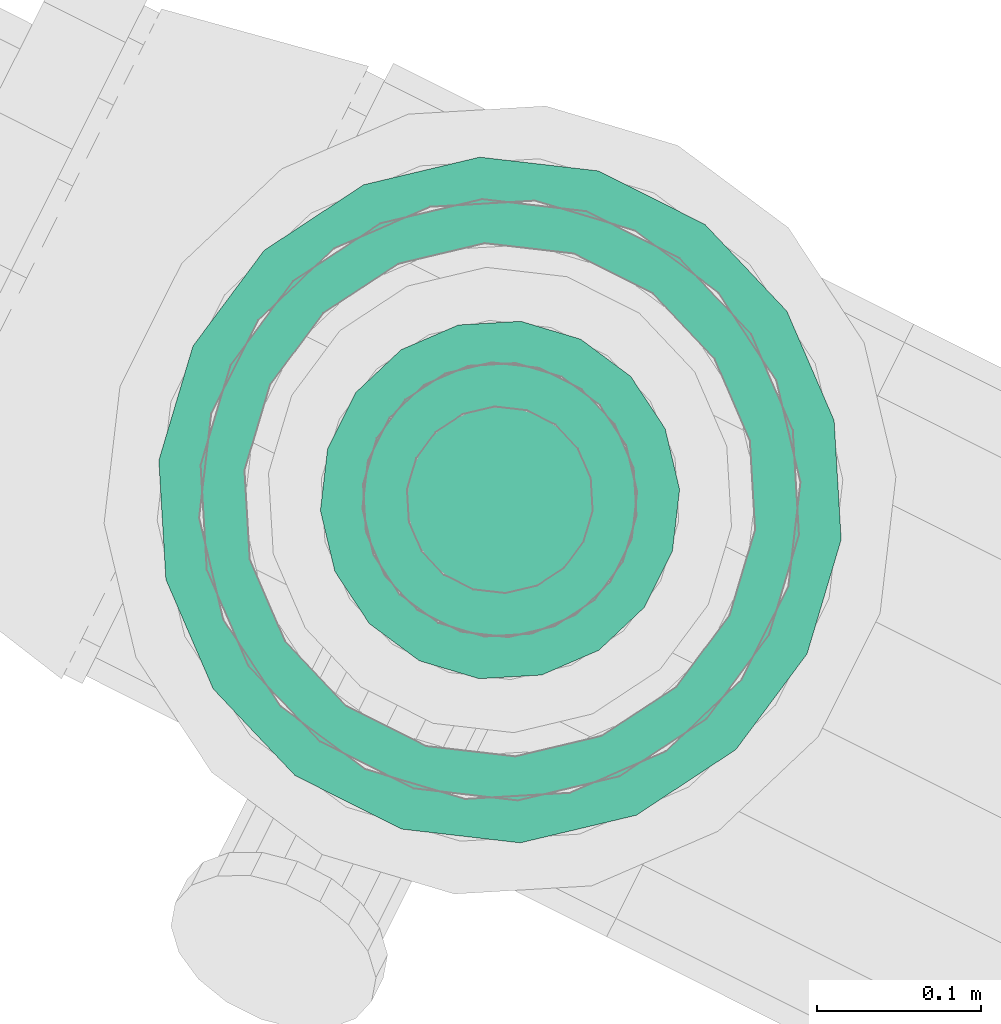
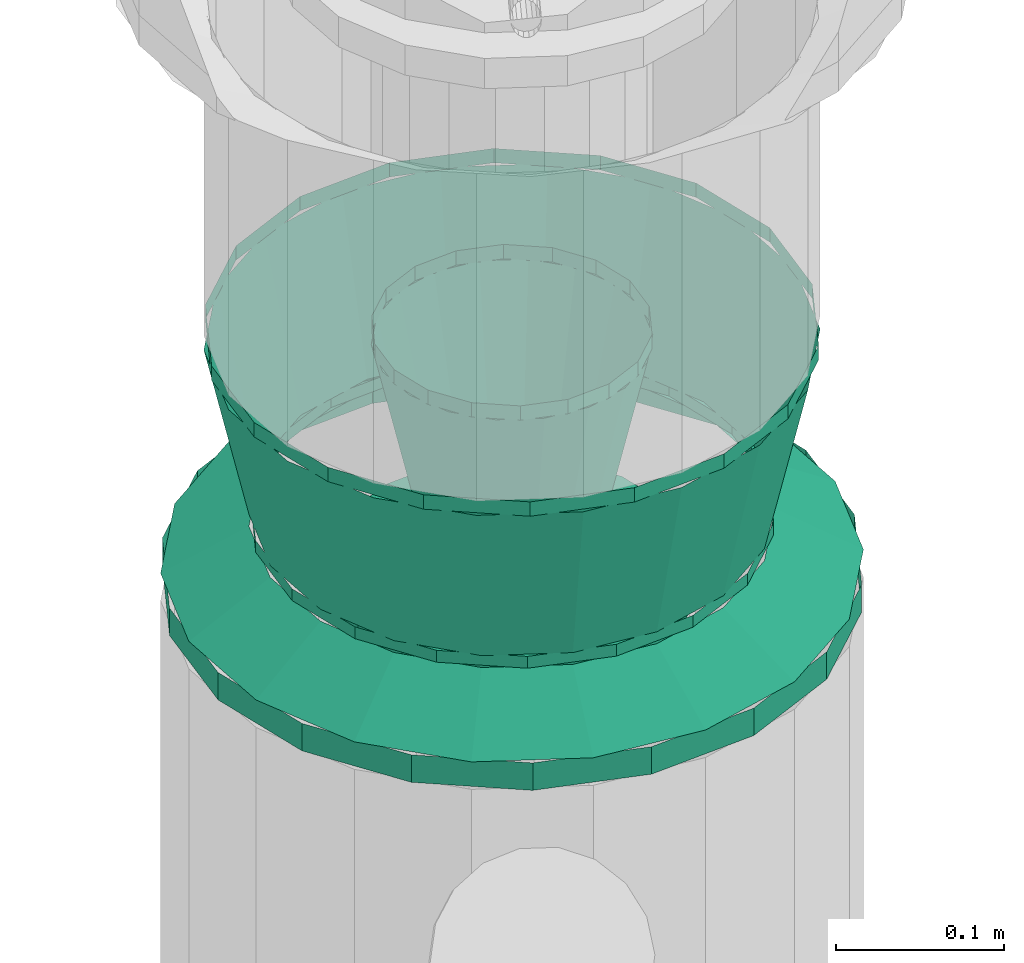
# One storey, part 69 of 152: 2 flow fittings.
"""IFC2X3 building model written with IfcOpenShell, lengths in metres."""

from ifc_helpers import new_model, si_unit, derived_unit, direction, frame, origin, place, context, subcontext, project, spatial, face_set, surface_model, source, transform, mapped, material, type_object, type_shapes, element, save


model = new_model("IFC2X3")

# Units and contexts
model_context = context("Model", 3, precision=5.2338327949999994e-05, world=origin(), true_north=direction((0.0, 1.0)))
body_context = subcontext(model_context, "Body", "Model", "MODEL_VIEW")
ifc_project = project(units=[si_unit("LENGTHUNIT", "METRE"), si_unit("AREAUNIT", "SQUARE_METRE"), si_unit("VOLUMEUNIT", "CUBIC_METRE"), si_unit("MASSUNIT", "GRAM", prefix="KILO"), si_unit("PLANEANGLEUNIT", "RADIAN"), derived_unit("THERMALTRANSMITTANCEUNIT", [(si_unit("MASSUNIT", "GRAM", prefix="KILO"), 1), (si_unit("THERMODYNAMICTEMPERATUREUNIT", "KELVIN"), -1), (si_unit("TIMEUNIT", "SECOND"), -3)])], contexts=[model_context])

# Site, building, storey
site_placement = place(None, frame((0.0, 0.0, 0.0), z_axis=(0.0, 0.0, 1.0), x_axis=(0.8939966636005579, -0.4480736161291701, 0.0)))
site = spatial("IfcSite", under=ifc_project, at=site_placement, Name="Default", CompositionType="ELEMENT")
building_placement = place(site_placement, origin())
building = spatial("IfcBuilding", under=site, at=building_placement, CompositionType="ELEMENT")
storey_placement = place(building_placement, frame((0.0, 0.0, 2.7499999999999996)))
storey = spatial("IfcBuildingStorey", under=building, at=storey_placement, Name="1. Obergeschoss", CompositionType="ELEMENT", Elevation=2.7499999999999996)

# Flow fittings
ifc_material = material(Name="IfcSurfaceStyle #1741")
distribution_element_type_1 = type_object("IfcDistributionElementType", Name="Flansch 318448:Flansch 318448", material=ifc_material)
shared_shape_1 = source(origin(), body_context, "Body", "SurfaceModel", [
    surface_model("IfcFaceBasedSurfaceModel", [(23.08485389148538, 8.569715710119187, 3.863870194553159), (23.047231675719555, 8.563081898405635, 3.863870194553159), (23.047231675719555, 8.563081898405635, 3.8838701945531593), (23.08485389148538, 8.569715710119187, 3.8838701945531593), (23.01414725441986, 8.54398059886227, 3.863870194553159), (23.01414725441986, 8.54398059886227, 3.8838701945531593), (22.989591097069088, 8.514715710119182, 3.863870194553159), (22.989591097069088, 8.514715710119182, 3.8838701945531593), (22.976525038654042, 8.478817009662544, 3.863870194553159), (22.976525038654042, 8.478817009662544, 3.8838701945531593), (22.976525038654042, 8.440614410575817, 3.863870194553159), (22.976525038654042, 8.440614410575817, 3.8838701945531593), (22.98959109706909, 8.404715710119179, 3.863870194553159), (22.98959109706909, 8.404715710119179, 3.8838701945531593), (23.01414725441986, 8.375450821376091, 3.863870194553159), (23.01414725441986, 8.375450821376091, 3.8838701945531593), (23.04723167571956, 8.356349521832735, 3.863870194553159), (23.04723167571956, 8.356349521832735, 3.8838701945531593), (23.084853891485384, 8.349715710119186, 3.863870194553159), (23.084853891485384, 8.349715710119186, 3.8838701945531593), (23.12247610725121, 8.356349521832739, 3.863870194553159), (23.12247610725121, 8.356349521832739, 3.8838701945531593), (23.155560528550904, 8.375450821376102, 3.863870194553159), (23.155560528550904, 8.375450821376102, 3.8838701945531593), (23.180116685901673, 8.404715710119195, 3.863870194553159), (23.180116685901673, 8.404715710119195, 3.8838701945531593), (23.19318274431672, 8.440614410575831, 3.863870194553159), (23.19318274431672, 8.440614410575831, 3.8838701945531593), (23.19318274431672, 8.478817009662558, 3.863870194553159), (23.19318274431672, 8.478817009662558, 3.8838701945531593), (23.180116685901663, 8.514715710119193, 3.863870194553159), (23.180116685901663, 8.514715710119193, 3.8838701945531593), (23.1555605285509, 8.54398059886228, 3.863870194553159), (23.1555605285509, 8.54398059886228, 3.8838701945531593), (23.122476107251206, 8.56308189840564, 3.863870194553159), (23.122476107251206, 8.56308189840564, 3.8838701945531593), (23.08485389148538, 8.459715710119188, 3.8838701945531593), (23.019353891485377, 8.459715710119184, 3.8838701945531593), (23.0233040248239, 8.437313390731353, 3.8838701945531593), (23.03115045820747, 8.44016925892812, 3.915870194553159), (23.02770389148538, 8.459715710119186, 3.915870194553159), (23.034677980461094, 8.417613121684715, 3.8838701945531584), (23.041074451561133, 8.422980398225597, 3.9158701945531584), (23.052103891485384, 8.402991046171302, 3.8838701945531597), (23.056278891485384, 8.410222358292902, 3.9158701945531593), (23.073479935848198, 8.395210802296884, 3.8838701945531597), (23.074929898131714, 8.40343394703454, 3.9158701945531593), (23.096227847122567, 8.395210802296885, 3.8838701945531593), (23.094777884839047, 8.40343394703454, 3.915870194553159), (23.11760389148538, 8.402991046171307, 3.8838701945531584), (23.113428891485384, 8.41022235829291, 3.9158701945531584), (23.135029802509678, 8.41761312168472, 3.8838701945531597), (23.128633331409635, 8.4229803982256, 3.9158701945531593), (23.14640375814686, 8.437313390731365, 3.883870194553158), (23.138557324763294, 8.440169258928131, 3.915870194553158), (23.150353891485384, 8.459715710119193, 3.8838701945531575), (23.142003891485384, 8.459715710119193, 3.915870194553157), (23.14640375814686, 8.482118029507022, 3.8838701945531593), (23.138557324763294, 8.479262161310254, 3.915870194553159), (23.13502980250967, 8.50181829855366, 3.8838701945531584), (23.128633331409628, 8.496451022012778, 3.9158701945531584), (23.11760389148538, 8.51644037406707, 3.8838701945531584), (23.11342889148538, 8.50920906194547, 3.9158701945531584), (23.096227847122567, 8.524220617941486, 3.8838701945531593), (23.094777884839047, 8.515997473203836, 3.915870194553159), (23.073479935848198, 8.524220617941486, 3.8838701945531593), (23.074929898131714, 8.515997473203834, 3.915870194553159), (23.052103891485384, 8.516440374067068, 3.8838701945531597), (23.056278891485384, 8.509209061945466, 3.9158701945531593), (23.034677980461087, 8.50181829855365, 3.8838701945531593), (23.04107445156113, 8.496451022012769, 3.915870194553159), (23.023304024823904, 8.482118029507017, 3.88387019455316), (23.03115045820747, 8.479262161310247, 3.9158701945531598), (23.08485389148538, 8.669715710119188, 3.863870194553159), (23.01302966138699, 8.657051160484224, 3.863870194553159), (23.01302966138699, 8.657051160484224, 3.8838701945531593), (23.084853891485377, 8.669715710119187, 3.88387019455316), (22.949868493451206, 8.620585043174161, 3.863870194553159), (22.949868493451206, 8.620585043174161, 3.8838701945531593), (22.902988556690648, 8.564715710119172, 3.863870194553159), (22.902988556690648, 8.564715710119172, 3.8838701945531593), (22.878044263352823, 8.496181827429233, 3.863870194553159), (22.878044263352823, 8.496181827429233, 3.8838701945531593), (22.878044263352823, 8.42324959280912, 3.863870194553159), (22.878044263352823, 8.42324959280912, 3.8838701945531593), (22.90298855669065, 8.354715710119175, 3.863870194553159), (22.90298855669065, 8.354715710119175, 3.8838701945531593), (22.94986849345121, 8.298846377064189, 3.863870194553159), (22.94986849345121, 8.298846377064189, 3.8838701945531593), (23.013029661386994, 8.26238025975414, 3.863870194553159), (23.013029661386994, 8.26238025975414, 3.8838701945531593), (23.084853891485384, 8.249715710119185, 3.863870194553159), (23.084853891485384, 8.249715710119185, 3.8838701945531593), (23.156678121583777, 8.262380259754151, 3.863870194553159), (23.156678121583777, 8.262380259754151, 3.8838701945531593), (23.21983928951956, 8.298846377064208, 3.863870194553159), (23.21983928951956, 8.298846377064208, 3.8838701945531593), (23.266719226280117, 8.354715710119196, 3.863870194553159), (23.266719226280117, 8.354715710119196, 3.8838701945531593), (23.29166351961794, 8.423249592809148, 3.863870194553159), (23.29166351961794, 8.423249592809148, 3.8838701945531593), (23.29166351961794, 8.496181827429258, 3.863870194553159), (23.29166351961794, 8.496181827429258, 3.8838701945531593), (23.26671922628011, 8.5647157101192, 3.863870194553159), (23.26671922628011, 8.5647157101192, 3.8838701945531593), (23.21983928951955, 8.620585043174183, 3.863870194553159), (23.21983928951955, 8.620585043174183, 3.8838701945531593), (23.156678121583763, 8.657051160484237, 3.863870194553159), (23.156678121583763, 8.657051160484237, 3.8838701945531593), (22.874853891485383, 8.459715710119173, 3.8838701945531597), (22.887518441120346, 8.387891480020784, 3.8838701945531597), (22.93718119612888, 8.40596724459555, 3.9158701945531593), (22.927703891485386, 8.459715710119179, 3.915870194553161), (22.923984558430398, 8.324730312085, 3.8838701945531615), (22.96447000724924, 8.358701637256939, 3.915870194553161), (22.97985389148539, 8.277850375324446, 3.8838701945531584), (23.006278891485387, 8.323619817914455, 3.9158701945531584), (23.048387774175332, 8.252906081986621, 3.8838701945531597), (23.057565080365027, 8.304953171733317, 3.9158701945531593), (23.121320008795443, 8.252906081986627, 3.8838701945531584), (23.11214270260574, 8.304953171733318, 3.9158701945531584), (23.18985389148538, 8.27785037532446, 3.8838701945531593), (23.16342889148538, 8.323619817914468, 3.915870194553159), (23.24572322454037, 8.324730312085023, 3.8838701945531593), (23.20523777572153, 8.358701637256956, 3.915870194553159), (23.28218934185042, 8.38789148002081, 3.8838701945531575), (23.232526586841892, 8.405967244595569, 3.915870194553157), (23.29485389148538, 8.4597157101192, 3.8838701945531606), (23.24200389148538, 8.4597157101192, 3.9158701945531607), (23.28218934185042, 8.531539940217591, 3.8838701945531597), (23.232526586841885, 8.513464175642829, 3.9158701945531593), (23.24572322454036, 8.594701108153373, 3.8838701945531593), (23.205237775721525, 8.560729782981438, 3.915870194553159), (23.189853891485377, 8.641581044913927, 3.8838701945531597), (23.163428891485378, 8.595811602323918, 3.9158701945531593), (23.121320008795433, 8.666525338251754, 3.8838701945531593), (23.112142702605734, 8.61447824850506, 3.915870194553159), (23.04838777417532, 8.66652533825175, 3.8838701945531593), (23.057565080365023, 8.614478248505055, 3.915870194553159), (22.979853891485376, 8.641581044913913, 3.8838701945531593), (23.00627889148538, 8.595811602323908, 3.915870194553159), (22.923984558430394, 8.594701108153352, 3.8838701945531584), (22.96447000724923, 8.56072978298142, 3.9158701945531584), (22.887518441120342, 8.531539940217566, 3.8838701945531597), (22.937181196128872, 8.513464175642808, 3.9158701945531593)], [face_set([[[0, 1, 2, 3]], [[1, 4, 5, 2]], [[4, 6, 7, 5]], [[6, 8, 9, 7]], [[8, 10, 11, 9]], [[10, 12, 13, 11]], [[12, 14, 15, 13]], [[14, 16, 17, 15]], [[16, 18, 19, 17]], [[18, 20, 21, 19]], [[20, 22, 23, 21]], [[22, 24, 25, 23]], [[24, 26, 27, 25]], [[26, 28, 29, 27]], [[28, 30, 31, 29]], [[30, 32, 33, 31]], [[32, 34, 35, 33]], [[34, 0, 3, 35]], [[36, 35, 3]], [[36, 33, 35]], [[36, 31, 33]], [[36, 29, 31]], [[36, 27, 29]], [[36, 25, 27]], [[36, 23, 25]], [[36, 21, 23]], [[36, 19, 21]], [[36, 17, 19]], [[36, 15, 17]], [[36, 13, 15]], [[36, 11, 13]], [[36, 9, 11]], [[36, 7, 9]], [[36, 5, 7]], [[36, 2, 5]], [[36, 3, 2]], [[37, 38, 39, 40]], [[38, 41, 42, 39]], [[41, 43, 44, 42]], [[43, 45, 46, 44]], [[45, 47, 48, 46]], [[47, 49, 50, 48]], [[49, 51, 52, 50]], [[51, 53, 54, 52]], [[53, 55, 56, 54]], [[55, 57, 58, 56]], [[57, 59, 60, 58]], [[59, 61, 62, 60]], [[61, 63, 64, 62]], [[63, 65, 66, 64]], [[65, 67, 68, 66]], [[67, 69, 70, 68]], [[69, 71, 72, 70]], [[71, 37, 40, 72]], [[73, 74, 75, 76]], [[74, 77, 78, 75]], [[77, 79, 80, 78]], [[79, 81, 82, 80]], [[81, 83, 84, 82]], [[83, 85, 86, 84]], [[85, 87, 88, 86]], [[87, 89, 90, 88]], [[89, 91, 92, 90]], [[91, 93, 94, 92]], [[93, 95, 96, 94]], [[95, 97, 98, 96]], [[97, 99, 100, 98]], [[99, 101, 102, 100]], [[101, 103, 104, 102]], [[103, 105, 106, 104]], [[105, 107, 108, 106]], [[107, 73, 76, 108]], [[109, 110, 111, 112]], [[110, 113, 114, 111]], [[113, 115, 116, 114]], [[115, 117, 118, 116]], [[117, 119, 120, 118]], [[119, 121, 122, 120]], [[121, 123, 124, 122]], [[123, 125, 126, 124]], [[125, 127, 128, 126]], [[127, 129, 130, 128]], [[129, 131, 132, 130]], [[131, 133, 134, 132]], [[133, 135, 136, 134]], [[135, 137, 138, 136]], [[137, 139, 140, 138]], [[139, 141, 142, 140]], [[141, 143, 144, 142]], [[143, 109, 112, 144]]])]),
])
type_shapes(distribution_element_type_1, [shared_shape_1])
flow_fitting_1_placement = place(storey_placement, frame((0.0, 0.0, -2.7499999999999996)))
element("IfcFlowFitting", 1, at=flow_fitting_1_placement, inside=storey, type_object=distribution_element_type_1, material=ifc_material, Name="Flansch", ObjectType="Flansch", context=body_context, shape_type="MappedRepresentation", body=[
    mapped(shared_shape_1, transform((0.0, 0.0, 0.0), scale=1.0)),
])
distribution_element_type_2 = type_object("IfcDistributionElementType", Name="Übergangsstück 318471:Übergangsstück 318471", material=ifc_material)
shared_shape_2 = source(origin(), body_context, "Body", "SurfaceModel", [
    surface_model("IfcFaceBasedSurfaceModel", [(23.08485389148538, 8.402565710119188, 3.915870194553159), (23.104400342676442, 8.406012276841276, 3.915870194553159), (23.104400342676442, 8.406012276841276, 3.924489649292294), (23.08485389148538, 8.402565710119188, 3.924489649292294), (23.121589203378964, 8.415936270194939, 3.915870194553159), (23.121589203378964, 8.415936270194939, 3.924489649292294), (23.13434724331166, 8.43114071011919, 3.915870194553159), (23.13434724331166, 8.43114071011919, 3.924489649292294), (23.141135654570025, 8.449791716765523, 3.915870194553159), (23.141135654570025, 8.449791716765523, 3.924489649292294), (23.141135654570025, 8.469639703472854, 3.915870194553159), (23.141135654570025, 8.469639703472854, 3.924489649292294), (23.13434724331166, 8.488290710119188, 3.915870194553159), (23.13434724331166, 8.488290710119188, 3.924489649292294), (23.12158920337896, 8.503495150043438, 3.915870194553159), (23.12158920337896, 8.503495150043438, 3.924489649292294), (23.104400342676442, 8.513419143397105, 3.915870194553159), (23.104400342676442, 8.513419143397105, 3.924489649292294), (23.08485389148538, 8.516865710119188, 3.915870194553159), (23.08485389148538, 8.516865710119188, 3.924489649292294), (23.06530744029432, 8.513419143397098, 3.915870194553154), (23.06530744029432, 8.513419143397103, 3.9244896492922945), (23.04811857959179, 8.503495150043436, 3.9158701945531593), (23.04811857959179, 8.503495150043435, 3.9244896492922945), (23.0353605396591, 8.488290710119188, 3.915870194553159), (23.0353605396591, 8.488290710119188, 3.924489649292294), (23.02857212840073, 8.469639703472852, 3.915870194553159), (23.02857212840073, 8.469639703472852, 3.924489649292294), (23.02857212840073, 8.44979171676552, 3.915870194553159), (23.02857212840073, 8.44979171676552, 3.924489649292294), (23.035360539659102, 8.43114071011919, 3.915870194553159), (23.035360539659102, 8.43114071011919, 3.924489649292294), (23.04811857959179, 8.415936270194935, 3.915870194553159), (23.04811857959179, 8.415936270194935, 3.924489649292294), (23.06530744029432, 8.406012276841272, 3.915870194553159), (23.06530744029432, 8.406012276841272, 3.924489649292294), (23.08485389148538, 8.302565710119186, 3.915870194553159), (23.138602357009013, 8.312043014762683, 3.915870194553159), (23.138602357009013, 8.312043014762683, 3.924489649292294), (23.084853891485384, 8.302565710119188, 3.924489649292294), (23.18586796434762, 8.33933182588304, 3.915870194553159), (23.18586796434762, 8.33933182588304, 3.924489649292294), (23.220949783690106, 8.381140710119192, 3.915870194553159), (23.220949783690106, 8.381140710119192, 3.924489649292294), (23.239616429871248, 8.432426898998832, 3.915870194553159), (23.239616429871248, 8.432426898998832, 3.924489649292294), (23.239616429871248, 8.48700452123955, 3.915870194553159), (23.239616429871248, 8.48700452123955, 3.924489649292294), (23.220949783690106, 8.53829071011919, 3.915870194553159), (23.220949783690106, 8.53829071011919, 3.924489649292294), (23.185867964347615, 8.580099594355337, 3.915870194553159), (23.185867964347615, 8.580099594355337, 3.924489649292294), (23.138602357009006, 8.607388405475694, 3.915870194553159), (23.138602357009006, 8.607388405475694, 3.924489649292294), (23.084853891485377, 8.616865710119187, 3.915870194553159), (23.084853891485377, 8.616865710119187, 3.924489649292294), (23.031105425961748, 8.607388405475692, 3.915870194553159), (23.031105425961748, 8.607388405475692, 3.924489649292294), (22.983839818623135, 8.580099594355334, 3.915870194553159), (22.983839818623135, 8.580099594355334, 3.924489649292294), (22.948757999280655, 8.538290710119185, 3.915870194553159), (22.948757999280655, 8.538290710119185, 3.924489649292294), (22.930091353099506, 8.487004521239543, 3.915870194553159), (22.930091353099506, 8.487004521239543, 3.924489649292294), (22.93009135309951, 8.432426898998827, 3.915870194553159), (22.93009135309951, 8.432426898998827, 3.924489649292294), (22.94875799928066, 8.381140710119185, 3.915870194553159), (22.94875799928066, 8.381140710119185, 3.924489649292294), (22.98383981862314, 8.339331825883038, 3.915870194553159), (22.98383981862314, 8.339331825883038, 3.924489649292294), (23.031105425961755, 8.31204301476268, 3.915870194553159), (23.031105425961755, 8.31204301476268, 3.924489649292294), (23.142003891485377, 8.459715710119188, 3.9244896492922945), (23.138557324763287, 8.479262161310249, 3.9244896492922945), (23.163929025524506, 8.488496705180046, 4.045410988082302), (23.16900389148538, 8.459715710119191, 4.045410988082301), (23.128633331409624, 8.496451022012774, 3.924489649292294), (23.14931653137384, 8.513806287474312, 4.045410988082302), (23.113428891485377, 8.50920906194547, 3.924489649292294), (23.126928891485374, 8.532591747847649, 4.045410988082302), (23.09477788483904, 8.515997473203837, 3.9244896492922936), (23.099466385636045, 8.542587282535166, 4.045410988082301), (23.074929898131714, 8.515997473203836, 3.924489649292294), (23.0702413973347, 8.542587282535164, 4.045410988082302), (23.05627889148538, 8.509209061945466, 3.9244896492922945), (23.04277889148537, 8.532591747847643, 4.045410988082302), (23.041074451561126, 8.496451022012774, 3.924489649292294), (23.020391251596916, 8.513806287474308, 4.045410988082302), (23.03115045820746, 8.479262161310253, 3.9244896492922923), (23.00577875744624, 8.488496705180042, 4.045410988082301), (23.02770389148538, 8.459715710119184, 3.9244896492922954), (23.000703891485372, 8.459715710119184, 4.0454109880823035), (23.031150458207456, 8.440169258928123, 3.9244896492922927), (23.00577875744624, 8.430934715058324, 4.045410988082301), (23.04107445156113, 8.4229803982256, 3.924489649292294), (23.020391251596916, 8.40562513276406, 4.045410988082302), (23.05627889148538, 8.41022235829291, 3.924489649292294), (23.04277889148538, 8.386839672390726, 4.045410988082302), (23.074929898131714, 8.40343394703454, 3.924489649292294), (23.070241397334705, 8.37684413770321, 4.045410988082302), (23.09477788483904, 8.403433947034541, 3.924489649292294), (23.09946638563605, 8.37684413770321, 4.045410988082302), (23.113428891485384, 8.410222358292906, 3.9244896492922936), (23.12692889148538, 8.386839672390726, 4.045410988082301), (23.128633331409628, 8.422980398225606, 3.924489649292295), (23.14931653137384, 8.405625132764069, 4.045410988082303), (23.138557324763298, 8.440169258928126, 3.924489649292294), (23.16392902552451, 8.43093471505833, 4.045410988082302), (23.084853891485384, 8.375565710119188, 4.0454109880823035), (23.11363488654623, 8.380640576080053, 4.0454109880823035), (23.11363488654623, 8.380640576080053, 4.055870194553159), (23.084853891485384, 8.375565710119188, 4.055870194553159), (23.138944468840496, 8.395253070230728, 4.0454109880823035), (23.138944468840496, 8.395253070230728, 4.055870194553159), (23.157729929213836, 8.417640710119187, 4.0454109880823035), (23.157729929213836, 8.417640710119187, 4.055870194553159), (23.167725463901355, 8.445103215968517, 4.0454109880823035), (23.167725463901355, 8.445103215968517, 4.055870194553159), (23.167725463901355, 8.474328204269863, 4.0454109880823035), (23.167725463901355, 8.474328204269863, 4.055870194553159), (23.157729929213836, 8.50179071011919, 4.0454109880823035), (23.157729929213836, 8.50179071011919, 4.055870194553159), (23.138944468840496, 8.524178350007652, 4.0454109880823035), (23.138944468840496, 8.524178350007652, 4.055870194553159), (23.11363488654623, 8.538790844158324, 4.0454109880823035), (23.11363488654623, 8.538790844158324, 4.055870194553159), (23.084853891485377, 8.543865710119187, 4.0454109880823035), (23.084853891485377, 8.543865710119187, 4.055870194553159), (23.05607289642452, 8.53879084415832, 4.0454109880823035), (23.05607289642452, 8.53879084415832, 4.055870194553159), (23.03076331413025, 8.524178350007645, 4.0454109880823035), (23.03076331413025, 8.524178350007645, 4.055870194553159), (23.011977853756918, 8.501790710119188, 4.0454109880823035), (23.011977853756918, 8.501790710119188, 4.055870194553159), (23.001982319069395, 8.474328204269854, 4.0454109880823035), (23.001982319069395, 8.474328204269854, 4.055870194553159), (23.001982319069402, 8.445103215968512, 4.0454109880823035), (23.001982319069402, 8.445103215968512, 4.055870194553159), (23.011977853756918, 8.417640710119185, 4.0454109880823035), (23.011977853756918, 8.417640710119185, 4.055870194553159), (23.030763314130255, 8.395253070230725, 4.0454109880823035), (23.030763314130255, 8.395253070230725, 4.055870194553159), (23.056072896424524, 8.38064057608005, 4.0454109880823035), (23.056072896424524, 8.38064057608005, 4.055870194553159), (23.242003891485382, 8.45971571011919, 3.9244896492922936), (23.232526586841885, 8.51346417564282, 3.9244896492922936), (23.257898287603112, 8.522698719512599, 4.045410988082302), (23.26900389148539, 8.459715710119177, 4.045410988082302), (23.20523777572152, 8.56072978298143, 3.924489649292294), (23.225920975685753, 8.578085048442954, 4.045410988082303), (23.163428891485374, 8.59581160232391, 3.924489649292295), (23.176928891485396, 8.619194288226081, 4.0454109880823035), (23.112142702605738, 8.614478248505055, 3.924489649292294), (23.116831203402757, 8.641068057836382, 4.045410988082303), (23.057565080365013, 8.614478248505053, 3.924489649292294), (23.05287657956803, 8.641068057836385, 4.045410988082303), (23.006278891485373, 8.59581160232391, 3.924489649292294), (22.992778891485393, 8.619194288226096, 4.045410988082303), (22.96447000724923, 8.560729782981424, 3.9244896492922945), (22.943786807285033, 8.578085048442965, 4.0454109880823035), (22.937181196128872, 8.513464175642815, 3.924489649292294), (22.911809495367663, 8.522698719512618, 4.045410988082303), (22.927703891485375, 8.459715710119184, 3.924489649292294), (22.90070389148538, 8.459715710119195, 4.045410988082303), (22.937181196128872, 8.405967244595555, 3.924489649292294), (22.911809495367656, 8.396732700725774, 4.045410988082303), (22.964470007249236, 8.358701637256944, 3.9244896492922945), (22.943786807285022, 8.341346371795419, 4.0454109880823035), (23.006278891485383, 8.323619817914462, 3.9244896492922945), (22.992778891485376, 8.30023713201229, 4.0454109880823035), (23.057565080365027, 8.30495317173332, 3.9244896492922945), (23.052876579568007, 8.278363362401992, 4.0454109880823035), (23.11214270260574, 8.304953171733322, 3.924489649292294), (23.116831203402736, 8.278363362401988, 4.045410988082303), (23.16342889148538, 8.323619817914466, 3.924489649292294), (23.176928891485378, 8.300237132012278, 4.045410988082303), (23.205237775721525, 8.358701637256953, 3.9244896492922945), (23.225920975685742, 8.341346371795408, 4.0454109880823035), (23.232526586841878, 8.405967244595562, 3.924489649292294), (23.257898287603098, 8.396732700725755, 4.045410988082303), (23.084853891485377, 8.275565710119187, 4.0454109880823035), (23.147836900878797, 8.286671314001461, 4.0454109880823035), (23.147836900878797, 8.286671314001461, 4.055870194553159), (23.084853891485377, 8.275565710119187, 4.055870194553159), (23.20322322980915, 8.318648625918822, 4.0454109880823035), (23.20322322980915, 8.318648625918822, 4.055870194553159), (23.244332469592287, 8.36764071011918, 4.0454109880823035), (23.244332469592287, 8.36764071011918, 4.055870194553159), (23.26620623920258, 8.427738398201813, 4.0454109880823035), (23.26620623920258, 8.427738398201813, 4.055870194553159), (23.26620623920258, 8.491693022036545, 4.0454109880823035), (23.26620623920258, 8.491693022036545, 4.055870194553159), (23.24433246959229, 8.55179071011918, 4.0454109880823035), (23.24433246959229, 8.55179071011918, 4.055870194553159), (23.20322322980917, 8.60078279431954, 4.0454109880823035), (23.20322322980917, 8.60078279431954, 4.055870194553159), (23.147836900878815, 8.632760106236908, 4.0454109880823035), (23.147836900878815, 8.632760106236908, 4.055870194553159), (23.084853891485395, 8.64386571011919, 4.0454109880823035), (23.084853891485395, 8.64386571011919, 4.055870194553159), (23.021870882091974, 8.632760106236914, 4.0454109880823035), (23.021870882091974, 8.632760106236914, 4.055870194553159), (22.96648455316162, 8.600782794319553, 4.0454109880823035), (22.96648455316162, 8.600782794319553, 4.055870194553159), (22.92537531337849, 8.551790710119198, 4.0454109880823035), (22.92537531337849, 8.551790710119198, 4.055870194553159), (22.90350154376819, 8.491693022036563, 4.0454109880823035), (22.90350154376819, 8.491693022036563, 4.055870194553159), (22.903501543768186, 8.42773839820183, 4.0454109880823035), (22.903501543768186, 8.42773839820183, 4.055870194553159), (22.925375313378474, 8.367640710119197, 4.0454109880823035), (22.925375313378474, 8.367640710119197, 4.055870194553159), (22.966484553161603, 8.318648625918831, 4.0454109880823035), (22.966484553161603, 8.318648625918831, 4.055870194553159), (23.021870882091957, 8.286671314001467, 4.0454109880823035), (23.021870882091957, 8.286671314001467, 4.055870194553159)], [face_set([[[0, 1, 2, 3]], [[1, 4, 5, 2]], [[4, 6, 7, 5]], [[6, 8, 9, 7]], [[8, 10, 11, 9]], [[10, 12, 13, 11]], [[12, 14, 15, 13]], [[14, 16, 17, 15]], [[16, 18, 19, 17]], [[18, 20, 21, 19]], [[20, 22, 23, 21]], [[22, 24, 25, 23]], [[24, 26, 27, 25]], [[26, 28, 29, 27]], [[28, 30, 31, 29]], [[30, 32, 33, 31]], [[32, 34, 35, 33]], [[34, 0, 3, 35]], [[36, 37, 38, 39]], [[37, 40, 41, 38]], [[40, 42, 43, 41]], [[42, 44, 45, 43]], [[44, 46, 47, 45]], [[46, 48, 49, 47]], [[48, 50, 51, 49]], [[50, 52, 53, 51]], [[52, 54, 55, 53]], [[54, 56, 57, 55]], [[56, 58, 59, 57]], [[58, 60, 61, 59]], [[60, 62, 63, 61]], [[62, 64, 65, 63]], [[64, 66, 67, 65]], [[66, 68, 69, 67]], [[68, 70, 71, 69]], [[70, 36, 39, 71]], [[72, 73, 74, 75]], [[73, 76, 77, 74]], [[76, 78, 79, 77]], [[78, 80, 81, 79]], [[80, 82, 83, 81]], [[82, 84, 85, 83]], [[84, 86, 87, 85]], [[86, 88, 89, 87]], [[88, 90, 91, 89]], [[90, 92, 93, 91]], [[92, 94, 95, 93]], [[94, 96, 97, 95]], [[96, 98, 99, 97]], [[98, 100, 101, 99]], [[100, 102, 103, 101]], [[102, 104, 105, 103]], [[104, 106, 107, 105]], [[106, 72, 75, 107]], [[108, 109, 110, 111]], [[109, 112, 113, 110]], [[112, 114, 115, 113]], [[114, 116, 117, 115]], [[116, 118, 119, 117]], [[118, 120, 121, 119]], [[120, 122, 123, 121]], [[122, 124, 125, 123]], [[124, 126, 127, 125]], [[126, 128, 129, 127]], [[128, 130, 131, 129]], [[130, 132, 133, 131]], [[132, 134, 135, 133]], [[134, 136, 137, 135]], [[136, 138, 139, 137]], [[138, 140, 141, 139]], [[140, 142, 143, 141]], [[142, 108, 111, 143]], [[144, 145, 146, 147]], [[145, 148, 149, 146]], [[148, 150, 151, 149]], [[150, 152, 153, 151]], [[152, 154, 155, 153]], [[154, 156, 157, 155]], [[156, 158, 159, 157]], [[158, 160, 161, 159]], [[160, 162, 163, 161]], [[162, 164, 165, 163]], [[164, 166, 167, 165]], [[166, 168, 169, 167]], [[168, 170, 171, 169]], [[170, 172, 173, 171]], [[172, 174, 175, 173]], [[174, 176, 177, 175]], [[176, 178, 179, 177]], [[178, 144, 147, 179]], [[180, 181, 182, 183]], [[181, 184, 185, 182]], [[184, 186, 187, 185]], [[186, 188, 189, 187]], [[188, 190, 191, 189]], [[190, 192, 193, 191]], [[192, 194, 195, 193]], [[194, 196, 197, 195]], [[196, 198, 199, 197]], [[198, 200, 201, 199]], [[200, 202, 203, 201]], [[202, 204, 205, 203]], [[204, 206, 207, 205]], [[206, 208, 209, 207]], [[208, 210, 211, 209]], [[210, 212, 213, 211]], [[212, 214, 215, 213]], [[214, 180, 183, 215]]])]),
])
type_shapes(distribution_element_type_2, [shared_shape_2])
flow_fitting_2_placement = place(storey_placement, frame((0.0, 0.0, -2.7499999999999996)))
element("IfcFlowFitting", 2, at=flow_fitting_2_placement, inside=storey, type_object=distribution_element_type_2, material=ifc_material, Name="Übergangsstück", ObjectType="Übergangsstück", context=body_context, shape_type="MappedRepresentation", body=[
    mapped(shared_shape_2, transform((0.0, 0.0, 0.0), scale=1.0)),
])

save(model, "model.ifc")
